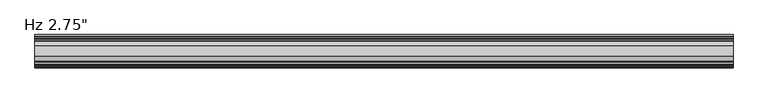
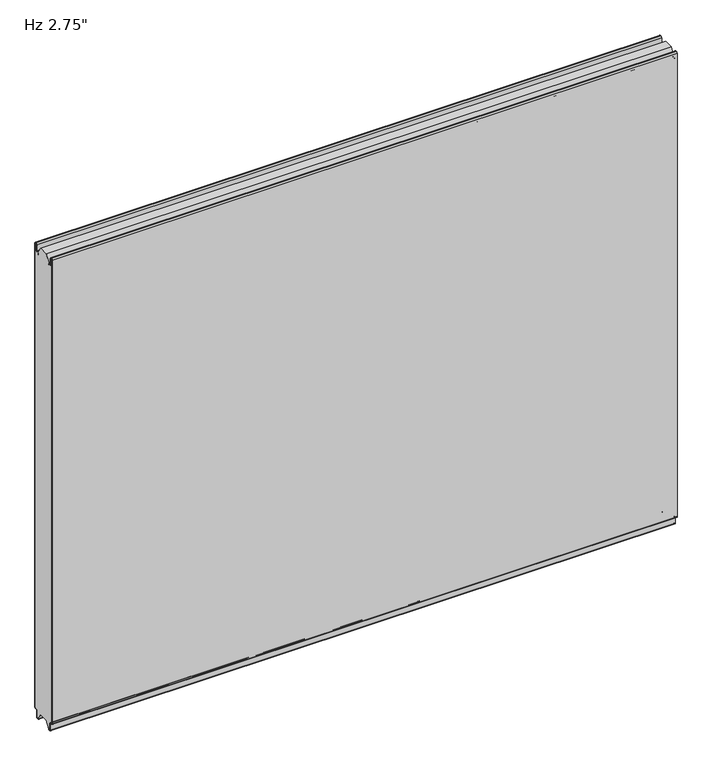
"""IFC4 building model written with IfcOpenShell, lengths in millimetres: plate geometry."""

from ifc_helpers import new_model, si_unit, frame, origin, place, context, project, spatial, polyline, circle_curve, source, transform, mapped, element, save
from ifc_brep_helpers import plane_surface, cylinder_surface, revolved_surface, advanced_brep


def plate_e03a2b05(model_context):
    return source(origin(), model_context, "Body", "AdvancedBrep", [
        advanced_brep(
        [(-730.0, -66.9227194, 3.8499499), (-730.0, -68.8999935, 5.8272239), (-730.0, -68.9, 1150.8100652), (-730.0, -66.9227315, 1152.7873337), (-730.0, -65.8806329, 1152.7873337), (-730.0, -63.9033643, 1150.8100652), (-730.0, -63.9033643, 1136.6216802), (-730.0, -61.3154878, 1134.0338036), (-730.0, -56.9950697, 1134.0338036), (-730.0, -56.4060762, 1133.4253365), (-730.0, -56.4060762, 1131.0482432), (-730.0, -55.4066023, 1131.0482432), (-730.0, -55.4066023, 1136.4905123), (-730.0, -46.1490865, 1152.525), (-730.0, -23.7509179, 1152.525), (-730.0, -14.4933977, 1136.4905123), (-730.0, -14.4933977, 1131.0482432), (-730.0, -13.4939238, 1131.0482432), (-730.0, -13.4939238, 1133.4253365), (-730.0, -12.9049303, 1134.0338036), (-730.0, -8.5845122, 1134.0338036), (-730.0, -5.9966357, 1136.6216802), (-730.0, -5.9966357, 1150.8100652), (-730.0, -4.0193671, 1152.7873337), (-730.0, -2.9772685, 1152.7873337), (-730.0, -1.0, 1150.8100652), (-730.0, -1.0, 5.8272239), (-730.0, -2.9772806, 3.8499499), (-730.0, -5.2691705, 3.8499499), (-730.0, -9.2464377, -0.1273173), (-730.0, -9.2464377, -15.7237417), (-730.0, -9.8343146, -16.3116186), (-730.0, -12.9058635, -16.3116186), (-730.0, -13.4937402, -15.723742), (-730.0, -13.4937402, -13.3687064), (-730.0, -14.4937402, -13.3687064), (-730.0, -14.4937402, -15.6582851), (-730.0, -23.7509135, 0.0), (-730.0, -46.1490865, 0.0), (-730.0, -55.4062598, -15.6582851), (-730.0, -55.4062598, -13.3687064), (-730.0, -56.4062598, -13.3687064), (-730.0, -56.4062598, -15.723742), (-730.0, -56.9941365, -16.3116186), (-730.0, -60.0656854, -16.3116186), (-730.0, -60.6535623, -15.7237417), (-730.0, -60.6535623, -0.1273173), (-730.0, -64.6308295, 3.8499499), (730.0, -66.9227194, 3.8499499), (730.0, -64.6308295, 3.8499499), (730.0, -60.6535623, -0.1273173), (730.0, -60.6535623, -15.7237417), (730.0, -60.0656854, -16.3116186), (730.0, -56.9941365, -16.3116186), (730.0, -56.4062598, -15.723742), (730.0, -56.4062598, -13.3687064), (730.0, -55.4062598, -13.3687064), (730.0, -55.4062598, -15.6582851), (730.0, -46.1490865, 0.0), (730.0, -23.7509179, 0.0), (730.0, -14.4937402, -15.6582851), (730.0, -14.4937402, -13.3687064), (730.0, -13.4937402, -13.3687064), (730.0, -13.4937402, -15.723742), (730.0, -12.9058635, -16.3116186), (730.0, -9.8343146, -16.3116186), (730.0, -9.2464377, -15.7237417), (730.0, -9.2464377, -0.1273173), (730.0, -5.2691705, 3.8499499), (730.0, -2.9772806, 3.8499499), (730.0, -1.0000065, 5.8272239), (730.0, -1.0, 1150.8100652), (730.0, -2.9772685, 1152.7873337), (730.0, -4.0193671, 1152.7873337), (730.0, -5.9966357, 1150.8100652), (730.0, -5.9966357, 1136.6216802), (730.0, -8.5845122, 1134.0338036), (730.0, -12.9049303, 1134.0338036), (730.0, -13.4939238, 1133.4253365), (730.0, -13.4939238, 1131.0482432), (730.0, -14.4933977, 1131.0482432), (730.0, -14.4933977, 1136.4905123), (730.0, -23.7509135, 1152.525), (730.0, -46.1490865, 1152.525), (730.0, -55.4066023, 1136.4905123), (730.0, -55.4066023, 1131.0482432), (730.0, -56.4060762, 1131.0482432), (730.0, -56.4060762, 1133.4253365), (730.0, -56.9950697, 1134.0338036), (730.0, -61.3154878, 1134.0338036), (730.0, -63.9033643, 1136.6216802), (730.0, -63.9033643, 1150.8100652), (730.0, -65.8806329, 1152.7873337), (730.0, -66.9227315, 1152.7873337), (730.0, -68.9, 1150.8100652), (730.0, -68.9, 5.8272239)],
        [
            (0, 1, circle_curve(frame((-730.0, -66.9227194, 5.8272239), z_axis=(-1.0, 0.0, 0.0), x_axis=(0.0, 0.0, -1.0)), 1.977274)),
            (1, 2),
            (2, 3, circle_curve(frame((-730.0, -66.9227315, 1150.8100652), z_axis=(-1.0, 0.0, 0.0), x_axis=(0.0, 0.0, -1.0)), 1.9772685)),
            (3, 4),
            (4, 5, circle_curve(frame((-730.0, -65.8806329, 1150.8100652), z_axis=(-1.0, 0.0, 0.0), x_axis=(0.0, 0.0, -1.0)), 1.9772685)),
            (5, 6),
            (6, 7, circle_curve(frame((-730.0, -61.3154878, 1136.6216802), z_axis=(1.0, 0.0, 0.0), x_axis=(0.0, 0.0, -1.0)), 2.5878765)),
            (7, 8),
            (8, 9, circle_curve(frame((-730.0, -56.9950697, 1133.4444985), z_axis=(-1.0, 0.0, 0.0), x_axis=(0.0, 0.0, -1.0)), 0.5893051)),
            (9, 10),
            (10, 11),
            (11, 12),
            (12, 13),
            (13, 14),
            (14, 15),
            (15, 16),
            (16, 17),
            (17, 18),
            (18, 19, circle_curve(frame((-730.0, -12.9049303, 1133.4444985), z_axis=(-1.0, 0.0, 0.0), x_axis=(0.0, 1.0, 0.0)), 0.5893051)),
            (19, 20),
            (20, 21, circle_curve(frame((-730.0, -8.5845122, 1136.6216802), z_axis=(1.0, 0.0, 0.0), x_axis=(0.0, 1.0, 0.0)), 2.5878765)),
            (21, 22),
            (22, 23, circle_curve(frame((-730.0, -4.0193671, 1150.8100652), z_axis=(-1.0, 0.0, 0.0), x_axis=(0.0, 1.0, 0.0)), 1.9772685)),
            (23, 24),
            (24, 25, circle_curve(frame((-730.0, -2.9772685, 1150.8100652), z_axis=(-1.0, 0.0, 0.0), x_axis=(0.0, 1.0, 0.0)), 1.9772685)),
            (25, 26),
            (26, 27, circle_curve(frame((-730.0, -2.9772806, 5.8272239), z_axis=(-1.0, 0.0, 0.0), x_axis=(0.0, 1.0, 0.0)), 1.977274)),
            (27, 28),
            (28, 29, circle_curve(frame((-730.0, -5.2691705, -0.1273173), z_axis=(1.0, 0.0, 0.0), x_axis=(0.0, 1.0, 0.0)), 3.9772671)),
            (29, 30),
            (30, 31, circle_curve(frame((-730.0, -9.8343146, -15.7237417), z_axis=(-1.0, 0.0, 0.0), x_axis=(0.0, 1.0, 0.0)), 0.5878769)),
            (31, 32),
            (32, 33, circle_curve(frame((-730.0, -12.9058635, -15.723742), z_axis=(-1.0, 0.0, 0.0), x_axis=(0.0, 1.0, 0.0)), 0.5878766)),
            (33, 34),
            (34, 35),
            (35, 36),
            (36, 37),
            (37, 38),
            (38, 39),
            (39, 40),
            (40, 41),
            (41, 42),
            (42, 43, circle_curve(frame((-730.0, -56.9941365, -15.723742), z_axis=(-1.0, 0.0, 0.0), x_axis=(0.0, 0.0, -1.0)), 0.5878766)),
            (43, 44),
            (44, 45, circle_curve(frame((-730.0, -60.0656854, -15.7237417), z_axis=(-1.0, 0.0, 0.0), x_axis=(0.0, 0.0, -1.0)), 0.5878769)),
            (45, 46),
            (46, 47, circle_curve(frame((-730.0, -64.6308295, -0.1273173), z_axis=(1.0, 0.0, 0.0), x_axis=(0.0, 0.0, -1.0)), 3.9772671)),
            (47, 0),
            (48, 49),
            (49, 50, circle_curve(frame((730.0, -64.6308295, -0.1273173), z_axis=(-1.0, 0.0, 0.0), x_axis=(0.0, 0.0, -1.0)), 3.9772671)),
            (50, 51),
            (51, 52, circle_curve(frame((730.0, -60.0656854, -15.7237417), z_axis=(1.0, 0.0, 0.0), x_axis=(0.0, 0.0, -1.0)), 0.5878769)),
            (52, 53),
            (53, 54, circle_curve(frame((730.0, -56.9941365, -15.723742), z_axis=(1.0, 0.0, 0.0), x_axis=(0.0, 0.0, -1.0)), 0.5878766)),
            (54, 55),
            (55, 56),
            (56, 57),
            (57, 58),
            (58, 59),
            (59, 60),
            (60, 61),
            (61, 62),
            (62, 63),
            (63, 64, circle_curve(frame((730.0, -12.9058635, -15.723742), z_axis=(1.0, 0.0, 0.0), x_axis=(0.0, 1.0, 0.0)), 0.5878766)),
            (64, 65),
            (65, 66, circle_curve(frame((730.0, -9.8343146, -15.7237417), z_axis=(1.0, 0.0, 0.0), x_axis=(0.0, 1.0, 0.0)), 0.5878769)),
            (66, 67),
            (67, 68, circle_curve(frame((730.0, -5.2691705, -0.1273173), z_axis=(-1.0, 0.0, 0.0), x_axis=(0.0, 1.0, 0.0)), 3.9772671)),
            (68, 69),
            (69, 70, circle_curve(frame((730.0, -2.9772806, 5.8272239), z_axis=(1.0, 0.0, 0.0), x_axis=(0.0, 1.0, 0.0)), 1.977274)),
            (70, 71),
            (71, 72, circle_curve(frame((730.0, -2.9772685, 1150.8100652), z_axis=(1.0, 0.0, 0.0), x_axis=(0.0, 1.0, 0.0)), 1.9772685)),
            (72, 73),
            (73, 74, circle_curve(frame((730.0, -4.0193671, 1150.8100652), z_axis=(1.0, 0.0, 0.0), x_axis=(0.0, 1.0, 0.0)), 1.9772685)),
            (74, 75),
            (75, 76, circle_curve(frame((730.0, -8.5845122, 1136.6216802), z_axis=(-1.0, 0.0, 0.0), x_axis=(0.0, 1.0, 0.0)), 2.5878765)),
            (76, 77),
            (77, 78, circle_curve(frame((730.0, -12.9049303, 1133.4444985), z_axis=(1.0, 0.0, 0.0), x_axis=(0.0, 1.0, 0.0)), 0.5893051)),
            (78, 79),
            (79, 80),
            (80, 81),
            (81, 82),
            (82, 83),
            (83, 84),
            (84, 85),
            (85, 86),
            (86, 87),
            (87, 88, circle_curve(frame((730.0, -56.9950697, 1133.4444985), z_axis=(1.0, 0.0, 0.0), x_axis=(0.0, 0.0, -1.0)), 0.5893051)),
            (88, 89),
            (89, 90, circle_curve(frame((730.0, -61.3154878, 1136.6216802), z_axis=(-1.0, 0.0, 0.0), x_axis=(0.0, 0.0, -1.0)), 2.5878765)),
            (90, 91),
            (91, 92, circle_curve(frame((730.0, -65.8806329, 1150.8100652), z_axis=(1.0, 0.0, 0.0), x_axis=(0.0, 0.0, -1.0)), 1.9772685)),
            (92, 93),
            (93, 94, circle_curve(frame((730.0, -66.9227315, 1150.8100652), z_axis=(1.0, 0.0, 0.0), x_axis=(0.0, 0.0, -1.0)), 1.9772685)),
            (94, 95),
            (95, 48, circle_curve(frame((730.0, -66.9227194, 5.8272239), z_axis=(1.0, 0.0, 0.0), x_axis=(0.0, 0.0, -1.0)), 1.977274)),
            (13, 83),
            (82, 14),
            (58, 38),
            (37, 59),
            (47, 49),
            (48, 0),
            (46, 50),
            (45, 51),
            (44, 52),
            (43, 53),
            (42, 54),
            (41, 55),
            (40, 56),
            (39, 57),
            (12, 84),
            (11, 85),
            (10, 86),
            (9, 87),
            (8, 88),
            (7, 89),
            (6, 90),
            (5, 91),
            (4, 92),
            (3, 93),
            (2, 94),
            (1, 95),
            (26, 70),
            (69, 27),
            (25, 71),
            (24, 72),
            (23, 73),
            (22, 74),
            (21, 75),
            (20, 76),
            (19, 77),
            (18, 78),
            (17, 79),
            (16, 80),
            (15, 81),
            (36, 60),
            (35, 61),
            (34, 62),
            (33, 63),
            (32, 64),
            (31, 65),
            (30, 66),
            (29, 67),
            (28, 68),
        ],
        [
            plane_surface(frame((-730.0, -68.9, 576.2625), z_axis=(-1.0, 0.0, 0.0), x_axis=(0.0, -1.0, 0.0))),
            plane_surface(frame((730.0, -68.9, 576.2625), z_axis=(1.0, 0.0, 0.0), x_axis=(0.0, -1.0, 0.0))),
            plane_surface(frame((-730.0, -46.1490865, 1152.525), z_axis=(0.0, 0.0, 1.0), x_axis=(-1.0, 0.0, 0.0))),
            plane_surface(frame((-730.0, -46.1490865, 0.0), z_axis=(0.0, 0.0, -1.0), x_axis=(1.0, 0.0, 0.0))),
            plane_surface(frame((-730.0, -66.9227194, 3.8499499), z_axis=(0.0, 0.0, -1.0), x_axis=(1.0, 0.0, 0.0))),
            revolved_surface(polyline([(730.0, -64.6308295, -4.1045844), (-730.0, -64.6308295, -4.1045844)]), (-730.0, -64.6308295, -0.1273173), (1.0, 0.0, 0.0)),
            plane_surface(frame((-730.0, -60.6535623, -0.1273173), z_axis=(0.0, -1.0, 0.0), x_axis=(1.0, 0.0, 0.0))),
            cylinder_surface(frame((-730.0, -60.0656854, -15.7237417), z_axis=(-1.0, 0.0, 0.0), x_axis=(0.0, 0.0, -1.0)), 0.5878769),
            plane_surface(frame((-730.0, -60.0656854, -16.3116186), z_axis=(0.0, 0.0, -1.0), x_axis=(1.0, 0.0, 0.0))),
            cylinder_surface(frame((-730.0, -56.9941365, -15.723742), z_axis=(-1.0, 0.0, 0.0), x_axis=(0.0, 0.0, -1.0)), 0.5878766),
            plane_surface(frame((-730.0, -56.4062598, -15.723742), z_axis=(0.0, 1.0, 0.0), x_axis=(1.0, 0.0, 0.0))),
            plane_surface(frame((-730.0, -56.4062598, -13.3687064), z_axis=(0.0, 0.0, -1.0), x_axis=(1.0, 0.0, 0.0))),
            plane_surface(frame((-730.0, -55.4062598, -13.3687064), z_axis=(0.0, -1.0, 0.0), x_axis=(1.0, 0.0, 0.0))),
            plane_surface(frame((-730.0, -55.4062598, -15.6582851), z_axis=(0.0, 0.8608169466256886, -0.5089147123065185), x_axis=(1.0, 0.0, 0.0))),
            plane_surface(frame((-730.0, -46.1490865, 1152.525), z_axis=(0.0, -0.8660254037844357, 0.5000000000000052), x_axis=(1.0, 0.0, 0.0))),
            plane_surface(frame((-730.0, -55.4066023, 1136.4905123), z_axis=(0.0, -1.0, 0.0), x_axis=(1.0, 0.0, 0.0))),
            plane_surface(frame((-730.0, -55.4066023, 1131.0482432), z_axis=(0.0, 0.0, 1.0), x_axis=(1.0, 0.0, 0.0))),
            plane_surface(frame((-730.0, -56.4060762, 1131.0482432), z_axis=(0.0, 1.0, 0.0), x_axis=(1.0, 0.0, 0.0))),
            cylinder_surface(frame((-730.0, -56.9950697, 1133.4444985), z_axis=(-1.0, 0.0, 0.0), x_axis=(0.0, 0.0, -1.0)), 0.5893051),
            plane_surface(frame((-730.0, -56.9950697, 1134.0338036), z_axis=(0.0, 0.0, 1.0), x_axis=(1.0, 0.0, 0.0))),
            revolved_surface(polyline([(730.0, -61.3154878, 1134.0338037), (-730.0, -61.3154878, 1134.0338037)]), (-730.0, -61.3154878, 1136.6216802), (1.0, 0.0, 0.0)),
            plane_surface(frame((-730.0, -63.9033643, 1136.6216802), z_axis=(0.0, 1.0, 0.0), x_axis=(1.0, 0.0, 0.0))),
            cylinder_surface(frame((-730.0, -65.8806329, 1150.8100652), z_axis=(-1.0, 0.0, 0.0), x_axis=(0.0, 0.0, -1.0)), 1.9772685),
            plane_surface(frame((-730.0, -65.8806329, 1152.7873337), z_axis=(0.0, 0.0, 1.0), x_axis=(1.0, 0.0, 0.0))),
            cylinder_surface(frame((-730.0, -66.9227315, 1150.8100652), z_axis=(-1.0, 0.0, 0.0), x_axis=(0.0, 0.0, -1.0)), 1.9772685),
            plane_surface(frame((-730.0, -68.9, 1150.8100652), z_axis=(0.0, -1.0, 0.0), x_axis=(1.0, 0.0, 0.0))),
            cylinder_surface(frame((-730.0, -66.9227194, 5.8272239), z_axis=(-1.0, 0.0, 0.0), x_axis=(0.0, 0.0, -1.0)), 1.977274),
            cylinder_surface(frame((-730.0, -2.9772806, 5.8272239), z_axis=(-1.0, 0.0, 0.0), x_axis=(0.0, 1.0, 0.0)), 1.977274),
            plane_surface(frame((-730.0, -1.0, 5.8272239), z_axis=(0.0, 1.0, 0.0), x_axis=(1.0, 0.0, 0.0))),
            cylinder_surface(frame((-730.0, -2.9772685, 1150.8100652), z_axis=(-1.0, 0.0, 0.0), x_axis=(0.0, 1.0, 0.0)), 1.9772685),
            plane_surface(frame((-730.0, -2.9772685, 1152.7873337), z_axis=(0.0, 0.0, 1.0), x_axis=(1.0, 0.0, 0.0))),
            cylinder_surface(frame((-730.0, -4.0193671, 1150.8100652), z_axis=(-1.0, 0.0, 0.0), x_axis=(0.0, 1.0, 0.0)), 1.9772685),
            plane_surface(frame((-730.0, -5.9966357, 1150.8100652), z_axis=(0.0, -1.0, 0.0), x_axis=(1.0, 0.0, 0.0))),
            revolved_surface(polyline([(730.0, -5.996635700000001, 1136.6216802), (-730.0, -5.996635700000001, 1136.6216802)]), (-730.0, -8.5845122, 1136.6216802), (1.0, 0.0, 0.0)),
            plane_surface(frame((-730.0, -8.5845122, 1134.0338036), z_axis=(0.0, 0.0, 1.0), x_axis=(1.0, 0.0, 0.0))),
            cylinder_surface(frame((-730.0, -12.9049303, 1133.4444985), z_axis=(-1.0, 0.0, 0.0), x_axis=(0.0, 1.0, 0.0)), 0.5893051),
            plane_surface(frame((-730.0, -13.4939238, 1133.4253365), z_axis=(0.0, -1.0, 0.0), x_axis=(1.0, 0.0, 0.0))),
            plane_surface(frame((-730.0, -13.4939238, 1131.0482432), z_axis=(0.0, 0.0, 1.0), x_axis=(1.0, 0.0, 0.0))),
            plane_surface(frame((-730.0, -14.4933977, 1131.0482432), z_axis=(0.0, 1.0, 0.0), x_axis=(1.0, 0.0, 0.0))),
            plane_surface(frame((-730.0, -14.4933977, 1136.4905123), z_axis=(0.0, 0.8660254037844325, 0.5000000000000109), x_axis=(1.0, 0.0, 0.0))),
            plane_surface(frame((-730.0, -23.7509135, 0.0), z_axis=(0.0, -0.8608169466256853, -0.5089147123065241), x_axis=(1.0, 0.0, 0.0))),
            plane_surface(frame((-730.0, -14.4937402, -15.6582851), z_axis=(0.0, 1.0, 0.0), x_axis=(1.0, 0.0, 0.0))),
            plane_surface(frame((-730.0, -14.4937402, -13.3687064), z_axis=(0.0, 0.0, -1.0), x_axis=(1.0, 0.0, 0.0))),
            plane_surface(frame((-730.0, -13.4937402, -13.3687064), z_axis=(0.0, -1.0, 0.0), x_axis=(1.0, 0.0, 0.0))),
            cylinder_surface(frame((-730.0, -12.9058635, -15.723742), z_axis=(-1.0, 0.0, 0.0), x_axis=(0.0, 1.0, 0.0)), 0.5878766),
            plane_surface(frame((-730.0, -12.9058635, -16.3116186), z_axis=(0.0, 0.0, -1.0), x_axis=(1.0, 0.0, 0.0))),
            cylinder_surface(frame((-730.0, -9.8343146, -15.7237417), z_axis=(-1.0, 0.0, 0.0), x_axis=(0.0, 1.0, 0.0)), 0.5878769),
            plane_surface(frame((-730.0, -9.2464377, -15.7237417), z_axis=(0.0, 1.0, 0.0), x_axis=(1.0, 0.0, 0.0))),
            revolved_surface(polyline([(730.0, -1.2919034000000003, -0.1273173), (-730.0, -1.2919034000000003, -0.1273173)]), (-730.0, -5.2691705, -0.1273173), (1.0, 0.0, 0.0)),
            plane_surface(frame((-730.0, -5.2691705, 3.8499499), z_axis=(0.0, 0.0, -1.0), x_axis=(1.0, 0.0, 0.0))),
        ],
        [
            (0, [[1, 2, 3, 4, 5, 6, 7, 8, 9, 10, 11, 12, 13, 14, 15, 16, 17, 18, 19, 20, 21, 22, 23, 24, 25, 26, 27, 28, 29, 30, 31, 32, 33, 34, 35, 36, 37, 38, 39, 40, 41, 42, 43, 44, 45, 46, 47, 48]]),
            (1, [[49, 50, 51, 52, 53, 54, 55, 56, 57, 58, 59, 60, 61, 62, 63, 64, 65, 66, 67, 68, 69, 70, 71, 72, 73, 74, 75, 76, 77, 78, 79, 80, 81, 82, 83, 84, 85, 86, 87, 88, 89, 90, 91, 92, 93, 94, 95, 96]]),
            (2, [[97, -83, 98, -14]]),
            (3, [[99, -38, 100, -59]]),
            (4, [[101, -49, 102, -48]]),
            (5, [[103, -50, -101, -47]]),
            (6, [[104, -51, -103, -46]]),
            (7, [[105, -52, -104, -45]]),
            (8, [[106, -53, -105, -44]]),
            (9, [[107, -54, -106, -43]]),
            (10, [[108, -55, -107, -42]]),
            (11, [[109, -56, -108, -41]]),
            (12, [[110, -57, -109, -40]]),
            (13, [[-99, -58, -110, -39]]),
            (14, [[111, -84, -97, -13]]),
            (15, [[112, -85, -111, -12]]),
            (16, [[113, -86, -112, -11]]),
            (17, [[114, -87, -113, -10]]),
            (18, [[115, -88, -114, -9]]),
            (19, [[116, -89, -115, -8]]),
            (20, [[117, -90, -116, -7]]),
            (21, [[118, -91, -117, -6]]),
            (22, [[119, -92, -118, -5]]),
            (23, [[120, -93, -119, -4]]),
            (24, [[121, -94, -120, -3]]),
            (25, [[122, -95, -121, -2]]),
            (26, [[-102, -96, -122, -1]]),
            (27, [[123, -70, 124, -27]]),
            (28, [[125, -71, -123, -26]]),
            (29, [[126, -72, -125, -25]]),
            (30, [[127, -73, -126, -24]]),
            (31, [[128, -74, -127, -23]]),
            (32, [[129, -75, -128, -22]]),
            (33, [[130, -76, -129, -21]]),
            (34, [[131, -77, -130, -20]]),
            (35, [[132, -78, -131, -19]]),
            (36, [[133, -79, -132, -18]]),
            (37, [[134, -80, -133, -17]]),
            (38, [[135, -81, -134, -16]]),
            (39, [[-98, -82, -135, -15]]),
            (40, [[136, -60, -100, -37]]),
            (41, [[137, -61, -136, -36]]),
            (42, [[138, -62, -137, -35]]),
            (43, [[139, -63, -138, -34]]),
            (44, [[140, -64, -139, -33]]),
            (45, [[141, -65, -140, -32]]),
            (46, [[142, -66, -141, -31]]),
            (47, [[143, -67, -142, -30]]),
            (48, [[144, -68, -143, -29]]),
            (49, [[-124, -69, -144, -28]]),
        ],
    ),
        advanced_brep(
        [(-730.0, -2.9776189, 3.8501063), (-730.0, -1.0007088, 5.8270163), (-730.0, -1.0007088, 1150.812837), (-730.0, -2.97659, 1152.7887182), (-730.0, -4.019022, 1152.7887182), (-730.0, -5.9969834, 1150.8107568), (-730.0, -5.9969834, 1136.6215971), (-730.0, -8.5846834, 1134.0338971), (-730.0, -12.9049158, 1134.0338971), (-730.0, -13.4939528, 1133.4253599), (-730.0, -13.4939528, 1131.0482432), (-730.0, -14.4933977, 1131.0482432), (-730.0, -14.4933977, 1133.3929042), (-730.0, -12.9049303, 1135.0338036), (-730.0, -8.5845122, 1135.0338036), (-730.0, -6.9966356, 1136.6216801), (-730.0, -6.9966356, 1150.8100652), (-730.0, -4.0193671, 1153.7873337), (-730.0, -2.9772685, 1153.7873337), (-730.0, 0.0, 1150.8100652), (-730.0, 0.0, 5.8272211), (-730.0, -2.977286, 2.8499526), (-730.0, -5.2691698, 2.8499526), (-730.0, -8.2464384, -0.1273159), (-730.0, -8.2464384, -15.7237419), (-730.0, -9.8343149, -17.3116185), (-730.0, -12.9058636, -17.3116185), (-730.0, -14.4937401, -15.7237419), (-730.0, -14.4937401, -13.3687064), (-730.0, -13.4937365, -13.3687064), (-730.0, -13.4937365, -15.7237374), (-730.0, -12.9058654, -16.3116086), (-730.0, -9.834334, -16.3116086), (-730.0, -9.2464768, -15.7237514), (-730.0, -9.2464768, -0.1272391), (-730.0, -5.2691315, 3.8501063), (730.0, -2.9776189, 3.8501063), (730.0, -5.2691315, 3.8501063), (730.0, -9.2464768, -0.1272391), (730.0, -9.2464768, -15.7237514), (730.0, -9.834334, -16.3116086), (730.0, -12.9058654, -16.3116086), (730.0, -13.4937365, -15.7237374), (730.0, -13.4937365, -13.3687064), (730.0, -14.4937401, -13.3687064), (730.0, -14.4937401, -15.7237419), (730.0, -12.9058636, -17.3116185), (730.0, -9.8343149, -17.3116185), (730.0, -8.2464384, -15.7237419), (730.0, -8.2464384, -0.1273159), (730.0, -5.2691698, 2.8499526), (730.0, -2.977286, 2.8499526), (730.0, -1.75e-05, 5.8272211), (730.0, 0.0, 1150.8100652), (730.0, -2.9772685, 1153.7873337), (730.0, -4.0193671, 1153.7873337), (730.0, -6.9966356, 1150.8100652), (730.0, -6.9966356, 1136.6216801), (730.0, -8.5845122, 1135.0338036), (730.0, -12.9049303, 1135.0338036), (730.0, -14.4933977, 1133.3929042), (730.0, -14.4933977, 1131.0482432), (730.0, -13.4939528, 1131.0482432), (730.0, -13.4939528, 1133.4253599), (730.0, -12.9049158, 1134.0338971), (730.0, -8.5846834, 1134.0338971), (730.0, -5.9969834, 1136.6215971), (730.0, -5.9969834, 1150.8107568), (730.0, -4.019022, 1152.7887182), (730.0, -2.97659, 1152.7887182), (730.0, -1.0007088, 1150.812837), (730.0, -1.0007088, 5.8270163)],
        [
            (0, 1, circle_curve(frame((-730.0, -2.9776189, 5.8270163), z_axis=(1.0, 0.0, 0.0), x_axis=(0.0, 1.0, 0.0)), 1.9769101)),
            (1, 2),
            (2, 3, circle_curve(frame((-730.0, -2.97659, 1150.812837), z_axis=(1.0, 0.0, 0.0), x_axis=(0.0, 1.0, 0.0)), 1.9758812)),
            (3, 4),
            (4, 5, circle_curve(frame((-730.0, -4.019022, 1150.8107568), z_axis=(1.0, 0.0, 0.0), x_axis=(0.0, 1.0, 0.0)), 1.9779614)),
            (5, 6),
            (6, 7, circle_curve(frame((-730.0, -8.5846834, 1136.6215971), z_axis=(-1.0, 0.0, 0.0), x_axis=(0.0, 1.0, 0.0)), 2.5877)),
            (7, 8),
            (8, 9, circle_curve(frame((-730.0, -12.9049158, 1133.4445477), z_axis=(1.0, 0.0, 0.0), x_axis=(0.0, 1.0, 0.0)), 0.5893495)),
            (9, 10),
            (10, 11),
            (11, 12),
            (12, 13, circle_curve(frame((-730.0, -12.9049303, 1133.4444985), z_axis=(-1.0, 0.0, 0.0), x_axis=(0.0, 1.0, 0.0)), 1.5893051)),
            (13, 14),
            (14, 15, circle_curve(frame((-730.0, -8.5845122, 1136.6216801), z_axis=(1.0, 0.0, 0.0), x_axis=(0.0, 1.0, 0.0)), 1.5878765)),
            (15, 16),
            (16, 17, circle_curve(frame((-730.0, -4.0193671, 1150.8100652), z_axis=(-1.0, 0.0, 0.0), x_axis=(0.0, 1.0, 0.0)), 2.9772685)),
            (17, 18),
            (18, 19, circle_curve(frame((-730.0, -2.9772685, 1150.8100652), z_axis=(-1.0, 0.0, 0.0), x_axis=(0.0, 1.0, 0.0)), 2.9772685)),
            (19, 20),
            (20, 21, circle_curve(frame((-730.0, -2.977286, 5.8272211), z_axis=(-1.0, 0.0, 0.0), x_axis=(0.0, 1.0, 0.0)), 2.9772685)),
            (21, 22),
            (22, 23, circle_curve(frame((-730.0, -5.2691698, -0.1273159), z_axis=(1.0, 0.0, 0.0), x_axis=(0.0, 1.0, 0.0)), 2.9772685)),
            (23, 24),
            (24, 25, circle_curve(frame((-730.0, -9.8343149, -15.7237419), z_axis=(-1.0, 0.0, 0.0), x_axis=(0.0, 1.0, 0.0)), 1.5878765)),
            (25, 26),
            (26, 27, circle_curve(frame((-730.0, -12.9058636, -15.7237419), z_axis=(-1.0, 0.0, 0.0), x_axis=(0.0, 1.0, 0.0)), 1.5878765)),
            (27, 28),
            (28, 29),
            (29, 30),
            (30, 31, circle_curve(frame((-730.0, -12.9058654, -15.7237374), z_axis=(1.0, 0.0, 0.0), x_axis=(0.0, 1.0, 0.0)), 0.5878711)),
            (31, 32),
            (32, 33, circle_curve(frame((-730.0, -9.834334, -15.7237514), z_axis=(1.0, 0.0, 0.0), x_axis=(0.0, 1.0, 0.0)), 0.5878572)),
            (33, 34),
            (34, 35, circle_curve(frame((-730.0, -5.2691315, -0.1272391), z_axis=(-1.0, 0.0, 0.0), x_axis=(0.0, 1.0, 0.0)), 3.9773454)),
            (35, 0),
            (36, 37),
            (37, 38, circle_curve(frame((730.0, -5.2691315, -0.1272391), z_axis=(1.0, 0.0, 0.0), x_axis=(0.0, 1.0, 0.0)), 3.9773454)),
            (38, 39),
            (39, 40, circle_curve(frame((730.0, -9.834334, -15.7237514), z_axis=(-1.0, 0.0, 0.0), x_axis=(0.0, 1.0, 0.0)), 0.5878572)),
            (40, 41),
            (41, 42, circle_curve(frame((730.0, -12.9058654, -15.7237374), z_axis=(-1.0, 0.0, 0.0), x_axis=(0.0, 1.0, 0.0)), 0.5878711)),
            (42, 43),
            (43, 44),
            (44, 45),
            (45, 46, circle_curve(frame((730.0, -12.9058636, -15.7237419), z_axis=(1.0, 0.0, 0.0), x_axis=(0.0, 1.0, 0.0)), 1.5878765)),
            (46, 47),
            (47, 48, circle_curve(frame((730.0, -9.8343149, -15.7237419), z_axis=(1.0, 0.0, 0.0), x_axis=(0.0, 1.0, 0.0)), 1.5878765)),
            (48, 49),
            (49, 50, circle_curve(frame((730.0, -5.2691698, -0.1273159), z_axis=(-1.0, 0.0, 0.0), x_axis=(0.0, 1.0, 0.0)), 2.9772685)),
            (50, 51),
            (51, 52, circle_curve(frame((730.0, -2.977286, 5.8272211), z_axis=(1.0, 0.0, 0.0), x_axis=(0.0, 1.0, 0.0)), 2.9772685)),
            (52, 53),
            (53, 54, circle_curve(frame((730.0, -2.9772685, 1150.8100652), z_axis=(1.0, 0.0, 0.0), x_axis=(0.0, 1.0, 0.0)), 2.9772685)),
            (54, 55),
            (55, 56, circle_curve(frame((730.0, -4.0193671, 1150.8100652), z_axis=(1.0, 0.0, 0.0), x_axis=(0.0, 1.0, 0.0)), 2.9772685)),
            (56, 57),
            (57, 58, circle_curve(frame((730.0, -8.5845122, 1136.6216801), z_axis=(-1.0, 0.0, 0.0), x_axis=(0.0, 1.0, 0.0)), 1.5878765)),
            (58, 59),
            (59, 60, circle_curve(frame((730.0, -12.9049303, 1133.4444985), z_axis=(1.0, 0.0, 0.0), x_axis=(0.0, 1.0, 0.0)), 1.5893051)),
            (60, 61),
            (61, 62),
            (62, 63),
            (63, 64, circle_curve(frame((730.0, -12.9049158, 1133.4445477), z_axis=(-1.0, 0.0, 0.0), x_axis=(0.0, 1.0, 0.0)), 0.5893495)),
            (64, 65),
            (65, 66, circle_curve(frame((730.0, -8.5846834, 1136.6215971), z_axis=(1.0, 0.0, 0.0), x_axis=(0.0, 1.0, 0.0)), 2.5877)),
            (66, 67),
            (67, 68, circle_curve(frame((730.0, -4.019022, 1150.8107568), z_axis=(-1.0, 0.0, 0.0), x_axis=(0.0, 1.0, 0.0)), 1.9779614)),
            (68, 69),
            (69, 70, circle_curve(frame((730.0, -2.97659, 1150.812837), z_axis=(-1.0, 0.0, 0.0), x_axis=(0.0, 1.0, 0.0)), 1.9758812)),
            (70, 71),
            (71, 36, circle_curve(frame((730.0, -2.9776189, 5.8270163), z_axis=(-1.0, 0.0, 0.0), x_axis=(0.0, 1.0, 0.0)), 1.9769101)),
            (35, 37),
            (36, 0),
            (34, 38),
            (33, 39),
            (32, 40),
            (31, 41),
            (30, 42),
            (29, 43),
            (28, 44),
            (27, 45),
            (26, 46),
            (25, 47),
            (24, 48),
            (23, 49),
            (22, 50),
            (21, 51),
            (20, 52),
            (19, 53),
            (18, 54),
            (17, 55),
            (16, 56),
            (15, 57),
            (14, 58),
            (13, 59),
            (12, 60),
            (11, 61),
            (10, 62),
            (9, 63),
            (8, 64),
            (7, 65),
            (6, 66),
            (5, 67),
            (4, 68),
            (3, 69),
            (2, 70),
            (1, 71),
        ],
        [
            plane_surface(frame((-730.0, 0.0, 576.2625), z_axis=(-1.0, 0.0, 0.0), x_axis=(0.0, 1.0, 0.0))),
            plane_surface(frame((730.0, 0.0, 576.2625), z_axis=(1.0, 0.0, 0.0), x_axis=(0.0, 1.0, 0.0))),
            plane_surface(frame((-730.0, -2.9776189, 3.8501063), z_axis=(0.0, 0.0, 1.0), x_axis=(1.0, 0.0, 0.0))),
            cylinder_surface(frame((-730.0, -5.2691315, -0.1272391), z_axis=(-1.0, 0.0, 0.0), x_axis=(0.0, 1.0, 0.0)), 3.9773454),
            plane_surface(frame((-730.0, -9.2464768, -0.1272391), z_axis=(0.0, -1.0, 0.0), x_axis=(1.0, 0.0, 0.0))),
            revolved_surface(polyline([(730.0, -9.2464768, -15.7237514), (-730.0, -9.2464768, -15.7237514)]), (-730.0, -9.834334, -15.7237514), (1.0, 0.0, 0.0)),
            plane_surface(frame((-730.0, -9.834334, -16.3116086), z_axis=(0.0, 0.0, 1.0), x_axis=(1.0, 0.0, 0.0))),
            revolved_surface(polyline([(730.0, -12.3179943, -15.7237374), (-730.0, -12.3179943, -15.7237374)]), (-730.0, -12.9058654, -15.7237374), (1.0, 0.0, 0.0)),
            plane_surface(frame((-730.0, -13.4937365, -15.7237374), z_axis=(0.0, 1.0, 0.0), x_axis=(1.0, 0.0, 0.0))),
            plane_surface(frame((-730.0, -13.4937365, -13.3687064), z_axis=(0.0, 0.0, 1.0), x_axis=(1.0, 0.0, 0.0))),
            plane_surface(frame((-730.0, -14.4937401, -13.3687064), z_axis=(0.0, -1.0, 0.0), x_axis=(1.0, 0.0, 0.0))),
            cylinder_surface(frame((-730.0, -12.9058636, -15.7237419), z_axis=(-1.0, 0.0, 0.0), x_axis=(0.0, 1.0, 0.0)), 1.5878765),
            plane_surface(frame((-730.0, -12.9058636, -17.3116185), z_axis=(0.0, 0.0, -1.0), x_axis=(1.0, 0.0, 0.0))),
            cylinder_surface(frame((-730.0, -9.8343149, -15.7237419), z_axis=(-1.0, 0.0, 0.0), x_axis=(0.0, 1.0, 0.0)), 1.5878765),
            plane_surface(frame((-730.0, -8.2464384, -15.7237419), z_axis=(0.0, 1.0, 0.0), x_axis=(1.0, 0.0, 0.0))),
            revolved_surface(polyline([(730.0, -2.2919013, -0.1273159), (-730.0, -2.2919013, -0.1273159)]), (-730.0, -5.2691698, -0.1273159), (1.0, 0.0, 0.0)),
            plane_surface(frame((-730.0, -5.2691698, 2.8499526), z_axis=(0.0, 0.0, -1.0), x_axis=(1.0, 0.0, 0.0))),
            cylinder_surface(frame((-730.0, -2.977286, 5.8272211), z_axis=(-1.0, 0.0, 0.0), x_axis=(0.0, 1.0, 0.0)), 2.9772685),
            plane_surface(frame((-730.0, 0.0, 5.8272211), z_axis=(0.0, 1.0, 0.0), x_axis=(1.0, 0.0, 0.0))),
            cylinder_surface(frame((-730.0, -2.9772685, 1150.8100652), z_axis=(-1.0, 0.0, 0.0), x_axis=(0.0, 1.0, 0.0)), 2.9772685),
            plane_surface(frame((-730.0, -2.9772685, 1153.7873337), z_axis=(0.0, 0.0, 1.0), x_axis=(1.0, 0.0, 0.0))),
            cylinder_surface(frame((-730.0, -4.0193671, 1150.8100652), z_axis=(-1.0, 0.0, 0.0), x_axis=(0.0, 1.0, 0.0)), 2.9772685),
            plane_surface(frame((-730.0, -6.9966356, 1150.8100652), z_axis=(0.0, -1.0, 0.0), x_axis=(1.0, 0.0, 0.0))),
            revolved_surface(polyline([(730.0, -6.996635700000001, 1136.6216801), (-730.0, -6.996635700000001, 1136.6216801)]), (-730.0, -8.5845122, 1136.6216801), (1.0, 0.0, 0.0)),
            plane_surface(frame((-730.0, -8.5845122, 1135.0338036), z_axis=(0.0, 0.0, 1.0), x_axis=(1.0, 0.0, 0.0))),
            cylinder_surface(frame((-730.0, -12.9049303, 1133.4444985), z_axis=(-1.0, 0.0, 0.0), x_axis=(0.0, 1.0, 0.0)), 1.5893051),
            plane_surface(frame((-730.0, -14.4933977, 1133.3929042), z_axis=(0.0, -1.0, 0.0), x_axis=(1.0, 0.0, 0.0))),
            plane_surface(frame((-730.0, -14.4933977, 1131.0482432), z_axis=(0.0, 0.0, -1.0), x_axis=(1.0, 0.0, 0.0))),
            plane_surface(frame((-730.0, -13.4939528, 1131.0482432), z_axis=(0.0, 1.0, 0.0), x_axis=(1.0, 0.0, 0.0))),
            revolved_surface(polyline([(730.0, -12.3155663, 1133.4445477), (-730.0, -12.3155663, 1133.4445477)]), (-730.0, -12.9049158, 1133.4445477), (1.0, 0.0, 0.0)),
            plane_surface(frame((-730.0, -12.9049158, 1134.0338971), z_axis=(0.0, 0.0, -1.0), x_axis=(1.0, 0.0, 0.0))),
            cylinder_surface(frame((-730.0, -8.5846834, 1136.6215971), z_axis=(-1.0, 0.0, 0.0), x_axis=(0.0, 1.0, 0.0)), 2.5877),
            plane_surface(frame((-730.0, -5.9969834, 1136.6215971), z_axis=(0.0, 1.0, 0.0), x_axis=(1.0, 0.0, 0.0))),
            revolved_surface(polyline([(730.0, -2.0410606, 1150.8107568), (-730.0, -2.0410606, 1150.8107568)]), (-730.0, -4.019022, 1150.8107568), (1.0, 0.0, 0.0)),
            plane_surface(frame((-730.0, -4.019022, 1152.7887182), z_axis=(0.0, 0.0, -1.0), x_axis=(1.0, 0.0, 0.0))),
            revolved_surface(polyline([(730.0, -1.0007088, 1150.812837), (-730.0, -1.0007088, 1150.812837)]), (-730.0, -2.97659, 1150.812837), (1.0, 0.0, 0.0)),
            plane_surface(frame((-730.0, -1.0007088, 1150.812837), z_axis=(0.0, -1.0, 0.0), x_axis=(1.0, 0.0, 0.0))),
            revolved_surface(polyline([(730.0, -1.0007088, 5.8270163), (-730.0, -1.0007088, 5.8270163)]), (-730.0, -2.9776189, 5.8270163), (1.0, 0.0, 0.0)),
        ],
        [
            (0, [[1, 2, 3, 4, 5, 6, 7, 8, 9, 10, 11, 12, 13, 14, 15, 16, 17, 18, 19, 20, 21, 22, 23, 24, 25, 26, 27, 28, 29, 30, 31, 32, 33, 34, 35, 36]]),
            (1, [[37, 38, 39, 40, 41, 42, 43, 44, 45, 46, 47, 48, 49, 50, 51, 52, 53, 54, 55, 56, 57, 58, 59, 60, 61, 62, 63, 64, 65, 66, 67, 68, 69, 70, 71, 72]]),
            (2, [[73, -37, 74, -36]]),
            (3, [[75, -38, -73, -35]]),
            (4, [[76, -39, -75, -34]]),
            (5, [[77, -40, -76, -33]]),
            (6, [[78, -41, -77, -32]]),
            (7, [[79, -42, -78, -31]]),
            (8, [[80, -43, -79, -30]]),
            (9, [[81, -44, -80, -29]]),
            (10, [[82, -45, -81, -28]]),
            (11, [[83, -46, -82, -27]]),
            (12, [[84, -47, -83, -26]]),
            (13, [[85, -48, -84, -25]]),
            (14, [[86, -49, -85, -24]]),
            (15, [[87, -50, -86, -23]]),
            (16, [[88, -51, -87, -22]]),
            (17, [[89, -52, -88, -21]]),
            (18, [[90, -53, -89, -20]]),
            (19, [[91, -54, -90, -19]]),
            (20, [[92, -55, -91, -18]]),
            (21, [[93, -56, -92, -17]]),
            (22, [[94, -57, -93, -16]]),
            (23, [[95, -58, -94, -15]]),
            (24, [[96, -59, -95, -14]]),
            (25, [[97, -60, -96, -13]]),
            (26, [[98, -61, -97, -12]]),
            (27, [[99, -62, -98, -11]]),
            (28, [[100, -63, -99, -10]]),
            (29, [[101, -64, -100, -9]]),
            (30, [[102, -65, -101, -8]]),
            (31, [[103, -66, -102, -7]]),
            (32, [[104, -67, -103, -6]]),
            (33, [[105, -68, -104, -5]]),
            (34, [[106, -69, -105, -4]]),
            (35, [[107, -70, -106, -3]]),
            (36, [[108, -71, -107, -2]]),
            (37, [[-74, -72, -108, -1]]),
        ],
    ),
        advanced_brep(
        [(-730.0, -66.9223811, 3.8501063), (-730.0, -64.6308685, 3.8501063), (-730.0, -60.6535232, -0.1272391), (-730.0, -60.6535232, -15.7237514), (-730.0, -60.065666, -16.3116086), (-730.0, -56.9941346, -16.3116086), (-730.0, -56.4062635, -15.7237374), (-730.0, -56.4062635, -13.3687064), (-730.0, -55.4062599, -13.3687064), (-730.0, -55.4062599, -15.7237419), (-730.0, -56.9941364, -17.3116185), (-730.0, -60.0656851, -17.3116185), (-730.0, -61.6535616, -15.7237419), (-730.0, -61.6535616, -0.1273159), (-730.0, -64.6308302, 2.8499526), (-730.0, -66.922714, 2.8499526), (-730.0, -69.8999825, 5.8272211), (-730.0, -69.9, 1150.8100652), (-730.0, -66.9227315, 1153.7873337), (-730.0, -65.8806329, 1153.7873337), (-730.0, -62.9033644, 1150.8100652), (-730.0, -62.9033644, 1136.6216801), (-730.0, -61.3154878, 1135.0338036), (-730.0, -56.9950697, 1135.0338036), (-730.0, -55.4066023, 1133.3929042), (-730.0, -55.4066023, 1131.0482432), (-730.0, -56.4060472, 1131.0482432), (-730.0, -56.4060472, 1133.4253599), (-730.0, -56.9950842, 1134.0338971), (-730.0, -61.3153166, 1134.0338971), (-730.0, -63.9030166, 1136.6215971), (-730.0, -63.9030166, 1150.8107568), (-730.0, -65.880978, 1152.7887182), (-730.0, -66.92341, 1152.7887182), (-730.0, -68.8992912, 1150.812837), (-730.0, -68.8992912, 5.8270163), (730.0, -66.9223811, 3.8501063), (730.0, -68.8992912, 5.8270163), (730.0, -68.8992912, 1150.812837), (730.0, -66.92341, 1152.7887182), (730.0, -65.880978, 1152.7887182), (730.0, -63.9030166, 1150.8107568), (730.0, -63.9030166, 1136.6215971), (730.0, -61.3153166, 1134.0338971), (730.0, -56.9950842, 1134.0338971), (730.0, -56.4060472, 1133.4253599), (730.0, -56.4060472, 1131.0482432), (730.0, -55.4066023, 1131.0482432), (730.0, -55.4066023, 1133.3929042), (730.0, -56.9950697, 1135.0338036), (730.0, -61.3154878, 1135.0338036), (730.0, -62.9033644, 1136.6216801), (730.0, -62.9033644, 1150.8100652), (730.0, -65.8806329, 1153.7873337), (730.0, -66.9227315, 1153.7873337), (730.0, -69.9, 1150.8100652), (730.0, -69.9, 5.8272211), (730.0, -66.922714, 2.8499526), (730.0, -64.6308302, 2.8499526), (730.0, -61.6535616, -0.1273159), (730.0, -61.6535616, -15.7237419), (730.0, -60.0656851, -17.3116185), (730.0, -56.9941364, -17.3116185), (730.0, -55.4062599, -15.7237419), (730.0, -55.4062599, -13.3687064), (730.0, -56.4062635, -13.3687064), (730.0, -56.4062635, -15.7237374), (730.0, -56.9941346, -16.3116086), (730.0, -60.065666, -16.3116086), (730.0, -60.6535232, -15.7237514), (730.0, -60.6535232, -0.1272391), (730.0, -64.6308685, 3.8501063)],
        [
            (0, 1),
            (1, 2, circle_curve(frame((-730.0, -64.6308685, -0.1272391), z_axis=(-1.0, 0.0, 0.0), x_axis=(0.0, 0.0, -1.0)), 3.9773454)),
            (2, 3),
            (3, 4, circle_curve(frame((-730.0, -60.065666, -15.7237514), z_axis=(1.0, 0.0, 0.0), x_axis=(0.0, 0.0, -1.0)), 0.5878572)),
            (4, 5),
            (5, 6, circle_curve(frame((-730.0, -56.9941346, -15.7237374), z_axis=(1.0, 0.0, 0.0), x_axis=(0.0, 0.0, -1.0)), 0.5878711)),
            (6, 7),
            (7, 8),
            (8, 9),
            (9, 10, circle_curve(frame((-730.0, -56.9941364, -15.7237419), z_axis=(-1.0, 0.0, 0.0), x_axis=(0.0, 0.0, -1.0)), 1.5878765)),
            (10, 11),
            (11, 12, circle_curve(frame((-730.0, -60.0656851, -15.7237419), z_axis=(-1.0, 0.0, 0.0), x_axis=(0.0, 0.0, -1.0)), 1.5878765)),
            (12, 13),
            (13, 14, circle_curve(frame((-730.0, -64.6308302, -0.1273159), z_axis=(1.0, 0.0, 0.0), x_axis=(0.0, 0.0, -1.0)), 2.9772685)),
            (14, 15),
            (15, 16, circle_curve(frame((-730.0, -66.922714, 5.8272211), z_axis=(-1.0, 0.0, 0.0), x_axis=(0.0, 0.0, -1.0)), 2.9772685)),
            (16, 17),
            (17, 18, circle_curve(frame((-730.0, -66.9227315, 1150.8100652), z_axis=(-1.0, 0.0, 0.0), x_axis=(0.0, 0.0, -1.0)), 2.9772685)),
            (18, 19),
            (19, 20, circle_curve(frame((-730.0, -65.8806329, 1150.8100652), z_axis=(-1.0, 0.0, 0.0), x_axis=(0.0, 0.0, -1.0)), 2.9772685)),
            (20, 21),
            (21, 22, circle_curve(frame((-730.0, -61.3154878, 1136.6216801), z_axis=(1.0, 0.0, 0.0), x_axis=(0.0, 0.0, -1.0)), 1.5878765)),
            (22, 23),
            (23, 24, circle_curve(frame((-730.0, -56.9950697, 1133.4444985), z_axis=(-1.0, 0.0, 0.0), x_axis=(0.0, 0.0, -1.0)), 1.5893051)),
            (24, 25),
            (25, 26),
            (26, 27),
            (27, 28, circle_curve(frame((-730.0, -56.9950842, 1133.4445477), z_axis=(1.0, 0.0, 0.0), x_axis=(0.0, 0.0, -1.0)), 0.5893495)),
            (28, 29),
            (29, 30, circle_curve(frame((-730.0, -61.3153166, 1136.6215971), z_axis=(-1.0, 0.0, 0.0), x_axis=(0.0, 0.0, -1.0)), 2.5877)),
            (30, 31),
            (31, 32, circle_curve(frame((-730.0, -65.880978, 1150.8107568), z_axis=(1.0, 0.0, 0.0), x_axis=(0.0, 0.0, -1.0)), 1.9779614)),
            (32, 33),
            (33, 34, circle_curve(frame((-730.0, -66.92341, 1150.812837), z_axis=(1.0, 0.0, 0.0), x_axis=(0.0, 0.0, -1.0)), 1.9758812)),
            (34, 35),
            (35, 0, circle_curve(frame((-730.0, -66.9223811, 5.8270163), z_axis=(1.0, 0.0, 0.0), x_axis=(0.0, 0.0, -1.0)), 1.9769101)),
            (36, 37, circle_curve(frame((730.0, -66.9223811, 5.8270163), z_axis=(-1.0, 0.0, 0.0), x_axis=(0.0, 0.0, -1.0)), 1.9769101)),
            (37, 38),
            (38, 39, circle_curve(frame((730.0, -66.92341, 1150.812837), z_axis=(-1.0, 0.0, 0.0), x_axis=(0.0, 0.0, -1.0)), 1.9758812)),
            (39, 40),
            (40, 41, circle_curve(frame((730.0, -65.880978, 1150.8107568), z_axis=(-1.0, 0.0, 0.0), x_axis=(0.0, 0.0, -1.0)), 1.9779614)),
            (41, 42),
            (42, 43, circle_curve(frame((730.0, -61.3153166, 1136.6215971), z_axis=(1.0, 0.0, 0.0), x_axis=(0.0, 0.0, -1.0)), 2.5877)),
            (43, 44),
            (44, 45, circle_curve(frame((730.0, -56.9950842, 1133.4445477), z_axis=(-1.0, 0.0, 0.0), x_axis=(0.0, 0.0, -1.0)), 0.5893495)),
            (45, 46),
            (46, 47),
            (47, 48),
            (48, 49, circle_curve(frame((730.0, -56.9950697, 1133.4444985), z_axis=(1.0, 0.0, 0.0), x_axis=(0.0, 0.0, -1.0)), 1.5893051)),
            (49, 50),
            (50, 51, circle_curve(frame((730.0, -61.3154878, 1136.6216801), z_axis=(-1.0, 0.0, 0.0), x_axis=(0.0, 0.0, -1.0)), 1.5878765)),
            (51, 52),
            (52, 53, circle_curve(frame((730.0, -65.8806329, 1150.8100652), z_axis=(1.0, 0.0, 0.0), x_axis=(0.0, 0.0, -1.0)), 2.9772685)),
            (53, 54),
            (54, 55, circle_curve(frame((730.0, -66.9227315, 1150.8100652), z_axis=(1.0, 0.0, 0.0), x_axis=(0.0, 0.0, -1.0)), 2.9772685)),
            (55, 56),
            (56, 57, circle_curve(frame((730.0, -66.922714, 5.8272211), z_axis=(1.0, 0.0, 0.0), x_axis=(0.0, 0.0, -1.0)), 2.9772685)),
            (57, 58),
            (58, 59, circle_curve(frame((730.0, -64.6308302, -0.1273159), z_axis=(-1.0, 0.0, 0.0), x_axis=(0.0, 0.0, -1.0)), 2.9772685)),
            (59, 60),
            (60, 61, circle_curve(frame((730.0, -60.0656851, -15.7237419), z_axis=(1.0, 0.0, 0.0), x_axis=(0.0, 0.0, -1.0)), 1.5878765)),
            (61, 62),
            (62, 63, circle_curve(frame((730.0, -56.9941364, -15.7237419), z_axis=(1.0, 0.0, 0.0), x_axis=(0.0, 0.0, -1.0)), 1.5878765)),
            (63, 64),
            (64, 65),
            (65, 66),
            (66, 67, circle_curve(frame((730.0, -56.9941346, -15.7237374), z_axis=(-1.0, 0.0, 0.0), x_axis=(0.0, 0.0, -1.0)), 0.5878711)),
            (67, 68),
            (68, 69, circle_curve(frame((730.0, -60.065666, -15.7237514), z_axis=(-1.0, 0.0, 0.0), x_axis=(0.0, 0.0, -1.0)), 0.5878572)),
            (69, 70),
            (70, 71, circle_curve(frame((730.0, -64.6308685, -0.1272391), z_axis=(1.0, 0.0, 0.0), x_axis=(0.0, 0.0, -1.0)), 3.9773454)),
            (71, 36),
            (35, 37),
            (36, 0),
            (34, 38),
            (33, 39),
            (32, 40),
            (31, 41),
            (30, 42),
            (29, 43),
            (28, 44),
            (27, 45),
            (26, 46),
            (25, 47),
            (24, 48),
            (23, 49),
            (22, 50),
            (21, 51),
            (20, 52),
            (19, 53),
            (18, 54),
            (17, 55),
            (16, 56),
            (15, 57),
            (14, 58),
            (13, 59),
            (12, 60),
            (11, 61),
            (10, 62),
            (9, 63),
            (8, 64),
            (7, 65),
            (6, 66),
            (5, 67),
            (4, 68),
            (3, 69),
            (2, 70),
            (1, 71),
        ],
        [
            plane_surface(frame((-730.0, -69.9, 576.2625), z_axis=(-1.0, 0.0, 0.0), x_axis=(0.0, -1.0, 0.0))),
            plane_surface(frame((730.0, -69.9, 576.2625), z_axis=(1.0, 0.0, 0.0), x_axis=(0.0, -1.0, 0.0))),
            revolved_surface(polyline([(730.0, -66.9223811, 3.8501062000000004), (-730.0, -66.9223811, 3.8501062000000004)]), (-730.0, -66.9223811, 5.8270163), (1.0, 0.0, 0.0)),
            plane_surface(frame((-730.0, -68.8992912, 5.8270163), z_axis=(0.0, 1.0, 0.0), x_axis=(1.0, 0.0, 0.0))),
            revolved_surface(polyline([(730.0, -66.92341, 1148.8369558), (-730.0, -66.92341, 1148.8369558)]), (-730.0, -66.92341, 1150.812837), (1.0, 0.0, 0.0)),
            plane_surface(frame((-730.0, -66.92341, 1152.7887182), z_axis=(0.0, 0.0, -1.0), x_axis=(1.0, 0.0, 0.0))),
            revolved_surface(polyline([(730.0, -65.880978, 1148.8327954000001), (-730.0, -65.880978, 1148.8327954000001)]), (-730.0, -65.880978, 1150.8107568), (1.0, 0.0, 0.0)),
            plane_surface(frame((-730.0, -63.9030166, 1150.8107568), z_axis=(0.0, -1.0, 0.0), x_axis=(1.0, 0.0, 0.0))),
            cylinder_surface(frame((-730.0, -61.3153166, 1136.6215971), z_axis=(-1.0, 0.0, 0.0), x_axis=(0.0, 0.0, -1.0)), 2.5877),
            plane_surface(frame((-730.0, -61.3153166, 1134.0338971), z_axis=(0.0, 0.0, -1.0), x_axis=(1.0, 0.0, 0.0))),
            revolved_surface(polyline([(730.0, -56.9950842, 1132.8551982), (-730.0, -56.9950842, 1132.8551982)]), (-730.0, -56.9950842, 1133.4445477), (1.0, 0.0, 0.0)),
            plane_surface(frame((-730.0, -56.4060472, 1133.4253599), z_axis=(0.0, -1.0, 0.0), x_axis=(1.0, 0.0, 0.0))),
            plane_surface(frame((-730.0, -56.4060472, 1131.0482432), z_axis=(0.0, 0.0, -1.0), x_axis=(1.0, 0.0, 0.0))),
            plane_surface(frame((-730.0, -55.4066023, 1131.0482432), z_axis=(0.0, 1.0, 0.0), x_axis=(1.0, 0.0, 0.0))),
            cylinder_surface(frame((-730.0, -56.9950697, 1133.4444985), z_axis=(-1.0, 0.0, 0.0), x_axis=(0.0, 0.0, -1.0)), 1.5893051),
            plane_surface(frame((-730.0, -56.9950697, 1135.0338036), z_axis=(0.0, 0.0, 1.0), x_axis=(1.0, 0.0, 0.0))),
            revolved_surface(polyline([(730.0, -61.3154878, 1135.0338036), (-730.0, -61.3154878, 1135.0338036)]), (-730.0, -61.3154878, 1136.6216801), (1.0, 0.0, 0.0)),
            plane_surface(frame((-730.0, -62.9033644, 1136.6216801), z_axis=(0.0, 1.0, 0.0), x_axis=(1.0, 0.0, 0.0))),
            cylinder_surface(frame((-730.0, -65.8806329, 1150.8100652), z_axis=(-1.0, 0.0, 0.0), x_axis=(0.0, 0.0, -1.0)), 2.9772685),
            plane_surface(frame((-730.0, -65.8806329, 1153.7873337), z_axis=(0.0, 0.0, 1.0), x_axis=(1.0, 0.0, 0.0))),
            cylinder_surface(frame((-730.0, -66.9227315, 1150.8100652), z_axis=(-1.0, 0.0, 0.0), x_axis=(0.0, 0.0, -1.0)), 2.9772685),
            plane_surface(frame((-730.0, -69.9, 1150.8100652), z_axis=(0.0, -1.0, 0.0), x_axis=(1.0, 0.0, 0.0))),
            cylinder_surface(frame((-730.0, -66.922714, 5.8272211), z_axis=(-1.0, 0.0, 0.0), x_axis=(0.0, 0.0, -1.0)), 2.9772685),
            plane_surface(frame((-730.0, -66.922714, 2.8499526), z_axis=(0.0, 0.0, -1.0), x_axis=(1.0, 0.0, 0.0))),
            revolved_surface(polyline([(730.0, -64.6308302, -3.1045844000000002), (-730.0, -64.6308302, -3.1045844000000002)]), (-730.0, -64.6308302, -0.1273159), (1.0, 0.0, 0.0)),
            plane_surface(frame((-730.0, -61.6535616, -0.1273159), z_axis=(0.0, -1.0, 0.0), x_axis=(1.0, 0.0, 0.0))),
            cylinder_surface(frame((-730.0, -60.0656851, -15.7237419), z_axis=(-1.0, 0.0, 0.0), x_axis=(0.0, 0.0, -1.0)), 1.5878765),
            plane_surface(frame((-730.0, -60.0656851, -17.3116185), z_axis=(0.0, 0.0, -1.0), x_axis=(1.0, 0.0, 0.0))),
            cylinder_surface(frame((-730.0, -56.9941364, -15.7237419), z_axis=(-1.0, 0.0, 0.0), x_axis=(0.0, 0.0, -1.0)), 1.5878765),
            plane_surface(frame((-730.0, -55.4062599, -15.7237419), z_axis=(0.0, 1.0, 0.0), x_axis=(1.0, 0.0, 0.0))),
            plane_surface(frame((-730.0, -55.4062599, -13.3687064), z_axis=(0.0, 0.0, 1.0), x_axis=(1.0, 0.0, 0.0))),
            plane_surface(frame((-730.0, -56.4062635, -13.3687064), z_axis=(0.0, -1.0, 0.0), x_axis=(1.0, 0.0, 0.0))),
            revolved_surface(polyline([(730.0, -56.9941346, -16.3116085), (-730.0, -56.9941346, -16.3116085)]), (-730.0, -56.9941346, -15.7237374), (1.0, 0.0, 0.0)),
            plane_surface(frame((-730.0, -56.9941346, -16.3116086), z_axis=(0.0, 0.0, 1.0), x_axis=(1.0, 0.0, 0.0))),
            revolved_surface(polyline([(730.0, -60.065666, -16.3116086), (-730.0, -60.065666, -16.3116086)]), (-730.0, -60.065666, -15.7237514), (1.0, 0.0, 0.0)),
            plane_surface(frame((-730.0, -60.6535232, -15.7237514), z_axis=(0.0, 1.0, 0.0), x_axis=(1.0, 0.0, 0.0))),
            cylinder_surface(frame((-730.0, -64.6308685, -0.1272391), z_axis=(-1.0, 0.0, 0.0), x_axis=(0.0, 0.0, -1.0)), 3.9773454),
            plane_surface(frame((-730.0, -64.6308685, 3.8501063), z_axis=(0.0, 0.0, 1.0), x_axis=(1.0, 0.0, 0.0))),
        ],
        [
            (0, [[1, 2, 3, 4, 5, 6, 7, 8, 9, 10, 11, 12, 13, 14, 15, 16, 17, 18, 19, 20, 21, 22, 23, 24, 25, 26, 27, 28, 29, 30, 31, 32, 33, 34, 35, 36]]),
            (1, [[37, 38, 39, 40, 41, 42, 43, 44, 45, 46, 47, 48, 49, 50, 51, 52, 53, 54, 55, 56, 57, 58, 59, 60, 61, 62, 63, 64, 65, 66, 67, 68, 69, 70, 71, 72]]),
            (2, [[73, -37, 74, -36]]),
            (3, [[75, -38, -73, -35]]),
            (4, [[76, -39, -75, -34]]),
            (5, [[77, -40, -76, -33]]),
            (6, [[78, -41, -77, -32]]),
            (7, [[79, -42, -78, -31]]),
            (8, [[80, -43, -79, -30]]),
            (9, [[81, -44, -80, -29]]),
            (10, [[82, -45, -81, -28]]),
            (11, [[83, -46, -82, -27]]),
            (12, [[84, -47, -83, -26]]),
            (13, [[85, -48, -84, -25]]),
            (14, [[86, -49, -85, -24]]),
            (15, [[87, -50, -86, -23]]),
            (16, [[88, -51, -87, -22]]),
            (17, [[89, -52, -88, -21]]),
            (18, [[90, -53, -89, -20]]),
            (19, [[91, -54, -90, -19]]),
            (20, [[92, -55, -91, -18]]),
            (21, [[93, -56, -92, -17]]),
            (22, [[94, -57, -93, -16]]),
            (23, [[95, -58, -94, -15]]),
            (24, [[96, -59, -95, -14]]),
            (25, [[97, -60, -96, -13]]),
            (26, [[98, -61, -97, -12]]),
            (27, [[99, -62, -98, -11]]),
            (28, [[100, -63, -99, -10]]),
            (29, [[101, -64, -100, -9]]),
            (30, [[102, -65, -101, -8]]),
            (31, [[103, -66, -102, -7]]),
            (32, [[104, -67, -103, -6]]),
            (33, [[105, -68, -104, -5]]),
            (34, [[106, -69, -105, -4]]),
            (35, [[107, -70, -106, -3]]),
            (36, [[108, -71, -107, -2]]),
            (37, [[-74, -72, -108, -1]]),
        ],
    ),
    ])


if __name__ == "__main__":
    model = new_model("IFC4")
    model_context = context("Model", 3, world=origin())
    ifc_project = project(units=[si_unit("LENGTHUNIT", "METRE", prefix="MILLI")], contexts=[model_context])
    site = spatial("IfcSite", under=ifc_project)
    building = spatial("IfcBuilding", under=site)
    placement = place(None, origin())
    plate_shape = plate_e03a2b05(model_context)
    element("IfcPlate", 1, ObjectType="KIP-SLI-FLI-R19-CP-Hz-FL_FL : Hz 2.75\"", at=placement, inside=building, context=model_context, shape_type="MappedRepresentation", body=[
        mapped(plate_shape, transform((0.0, 0.0, 0.0), x_axis=(1.0, 0.0, 0.0), y_axis=(0.0, 1.0, 0.0), z_axis=(0.0, 0.0, 1.0))),
    ])
    save(model, "model.ifc")
